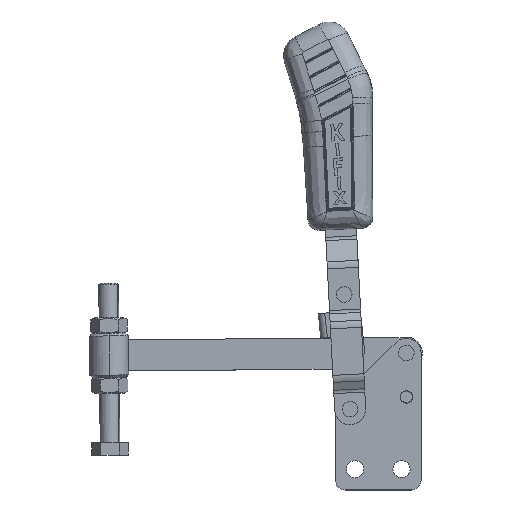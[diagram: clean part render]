
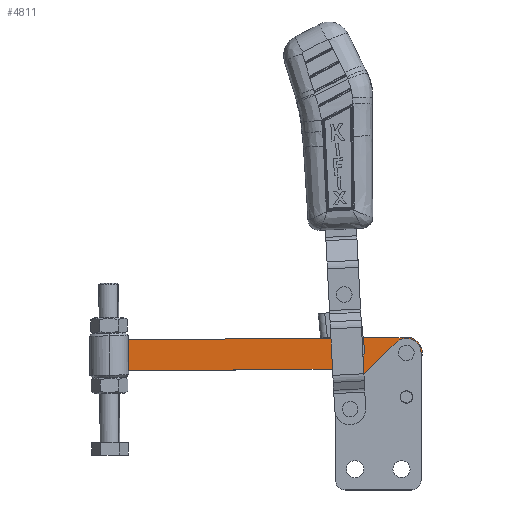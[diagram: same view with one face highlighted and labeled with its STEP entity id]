
A CAD part, top view. The second image highlights one B-rep face of the part: STEP entity #4811.
In plain terms, the highlighted planar face has unit normal (0, 0, 1) as drawn and (0, -1, 0) by its records, which use the part's own axes.
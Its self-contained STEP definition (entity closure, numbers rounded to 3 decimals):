
#299 = VERTEX_POINT ( 'NONE', #21518 ) ;
#413 = CARTESIAN_POINT ( 'NONE',  ( -33.018, 0., 2.4 ) ) ;
#459 = CARTESIAN_POINT ( 'NONE',  ( -56.018, 0., 0. ) ) ;
#463 = LINE ( 'NONE', #14193, #4371 ) ;
#575 = DIRECTION ( 'NONE',  ( 0., 0., 1. ) ) ;
#641 = DIRECTION ( 'NONE',  ( 0., 1., 0. ) ) ;
#696 = EDGE_CURVE ( 'NONE', #15420, #12527, #463, .T. ) ;
#1236 = ORIENTED_EDGE ( 'NONE', *, *, #18693, .F. ) ;
#1332 = ORIENTED_EDGE ( 'NONE', *, *, #11831, .T. ) ;
#1400 = ORIENTED_EDGE ( 'NONE', *, *, #2900, .T. ) ;
#1538 = ORIENTED_EDGE ( 'NONE', *, *, #14061, .T. ) ;
#1716 = DIRECTION ( 'NONE',  ( 0., 1., 0. ) ) ;
#1996 = DIRECTION ( 'NONE',  ( 0., 1., 0. ) ) ;
#2114 = AXIS2_PLACEMENT_3D ( 'NONE', #3198, #1716, #16602 ) ;
#2157 = VECTOR ( 'NONE', #11568, 1000. ) ;
#2420 = CARTESIAN_POINT ( 'NONE',  ( -25.831, 0., 6.731 ) ) ;
#2900 = EDGE_CURVE ( 'NONE', #299, #13559, #4855, .T. ) ;
#2974 = AXIS2_PLACEMENT_3D ( 'NONE', #17059, #3847, #575 ) ;
#3198 = CARTESIAN_POINT ( 'NONE',  ( -33.018, 0., 0. ) ) ;
#3351 = CARTESIAN_POINT ( 'NONE',  ( -56.018, 0., 2.4 ) ) ;
#3770 = AXIS2_PLACEMENT_3D ( 'NONE', #14757, #4829, #16428 ) ;
#3847 = DIRECTION ( 'NONE',  ( 0., 1., 0. ) ) ;
#4044 = DIRECTION ( 'NONE',  ( 0., -1., 0. ) ) ;
#4118 = DIRECTION ( 'NONE',  ( 0., 0., -1. ) ) ;
#4371 = VECTOR ( 'NONE', #14681, 1000. ) ;
#4480 = ORIENTED_EDGE ( 'NONE', *, *, #20715, .F. ) ;
#4646 = ORIENTED_EDGE ( 'NONE', *, *, #19034, .T. ) ;
#4804 = CIRCLE ( 'NONE', #3770, 2.4 ) ;
#4811 = ADVANCED_FACE ( 'NONE', ( #18098, #13133, #8695 ), #21360, .T. ) ;
#4829 = DIRECTION ( 'NONE',  ( 0., 1., 0. ) ) ;
#4855 = CIRCLE ( 'NONE', #18458, 2.4 ) ;
#5027 = VERTEX_POINT ( 'NONE', #16900 ) ;
#5112 = CARTESIAN_POINT ( 'NONE',  ( -41.05, 0., -46.85 ) ) ;
#5307 = AXIS2_PLACEMENT_3D ( 'NONE', #11929, #1996, #13604 ) ;
#5432 = EDGE_LOOP ( 'NONE', ( #1236, #4480, #16085, #7233, #1538, #14397 ) ) ;
#5660 = AXIS2_PLACEMENT_3D ( 'NONE', #10553, #641, #12232 ) ;
#6793 = DIRECTION ( 'NONE',  ( 0., 0., 1. ) ) ;
#7135 = DIRECTION ( 'NONE',  ( 0., 1., 0. ) ) ;
#7233 = ORIENTED_EDGE ( 'NONE', *, *, #696, .F. ) ;
#7957 = VERTEX_POINT ( 'NONE', #21205 ) ;
#8052 = AXIS2_PLACEMENT_3D ( 'NONE', #5112, #16713, #6793 ) ;
#8381 = CARTESIAN_POINT ( 'NONE',  ( -56.018, 0., 0. ) ) ;
#8695 = FACE_BOUND ( 'NONE', #19051, .T. ) ;
#8706 = LINE ( 'NONE', #18427, #12623 ) ;
#9041 = CIRCLE ( 'NONE', #5660, 10. ) ;
#10056 = EDGE_CURVE ( 'NONE', #5027, #20332, #11176, .T. ) ;
#10109 = DIRECTION ( 'NONE',  ( 0., 0., -1. ) ) ;
#10443 = LINE ( 'NONE', #18137, #2157 ) ;
#10553 = CARTESIAN_POINT ( 'NONE',  ( -23.099, 0., 16.35 ) ) ;
#10653 = VERTEX_POINT ( 'NONE', #21049 ) ;
#11035 = ORIENTED_EDGE ( 'NONE', *, *, #10056, .T. ) ;
#11176 = CIRCLE ( 'NONE', #2114, 2.4 ) ;
#11551 = CARTESIAN_POINT ( 'NONE',  ( 57.55, 0., 6.35 ) ) ;
#11568 = DIRECTION ( 'NONE',  ( -1., 0., 0. ) ) ;
#11831 = EDGE_CURVE ( 'NONE', #20332, #5027, #16857, .T. ) ;
#11929 = CARTESIAN_POINT ( 'NONE',  ( -56.018, 0., 0. ) ) ;
#12000 = EDGE_LOOP ( 'NONE', ( #11035, #1332 ) ) ;
#12151 = DIRECTION ( 'NONE',  ( 0., 0., 1. ) ) ;
#12232 = DIRECTION ( 'NONE',  ( 0., 0., -1. ) ) ;
#12527 = VERTEX_POINT ( 'NONE', #11551 ) ;
#12623 = VECTOR ( 'NONE', #10109, 1000. ) ;
#12850 = CIRCLE ( 'NONE', #5307, 6.532 ) ;
#13133 = FACE_OUTER_BOUND ( 'NONE', #5432, .T. ) ;
#13559 = VERTEX_POINT ( 'NONE', #3351 ) ;
#13604 = DIRECTION ( 'NONE',  ( 0., 0., -1. ) ) ;
#14061 = EDGE_CURVE ( 'NONE', #15420, #14741, #9041, .T. ) ;
#14193 = CARTESIAN_POINT ( 'NONE',  ( 57.55, 0., 6.35 ) ) ;
#14307 = CARTESIAN_POINT ( 'NONE',  ( -57.55, 0., 6.35 ) ) ;
#14397 = ORIENTED_EDGE ( 'NONE', *, *, #17718, .T. ) ;
#14681 = DIRECTION ( 'NONE',  ( 1., 0., 0. ) ) ;
#14741 = VERTEX_POINT ( 'NONE', #2420 ) ;
#14757 = CARTESIAN_POINT ( 'NONE',  ( -56.018, 0., 0. ) ) ;
#15360 = VERTEX_POINT ( 'NONE', #14307 ) ;
#15420 = VERTEX_POINT ( 'NONE', #17808 ) ;
#16085 = ORIENTED_EDGE ( 'NONE', *, *, #18651, .F. ) ;
#16428 = DIRECTION ( 'NONE',  ( 0., 0., 1. ) ) ;
#16602 = DIRECTION ( 'NONE',  ( 0., 0., 1. ) ) ;
#16713 = DIRECTION ( 'NONE',  ( 0., -1., 0. ) ) ;
#16857 = CIRCLE ( 'NONE', #2974, 2.4 ) ;
#16900 = CARTESIAN_POINT ( 'NONE',  ( -33.018, 0., -2.4 ) ) ;
#17059 = CARTESIAN_POINT ( 'NONE',  ( -33.018, 0., 0. ) ) ;
#17718 = EDGE_CURVE ( 'NONE', #14741, #15360, #19720, .T. ) ;
#17808 = CARTESIAN_POINT ( 'NONE',  ( -23.099, 0., 6.35 ) ) ;
#18098 = FACE_BOUND ( 'NONE', #12000, .T. ) ;
#18137 = CARTESIAN_POINT ( 'NONE',  ( -57.55, 0., -6.35 ) ) ;
#18215 = AXIS2_PLACEMENT_3D ( 'NONE', #459, #4044, #4118 ) ;
#18427 = CARTESIAN_POINT ( 'NONE',  ( 57.55, 0., -6.35 ) ) ;
#18458 = AXIS2_PLACEMENT_3D ( 'NONE', #8381, #7135, #12151 ) ;
#18651 = EDGE_CURVE ( 'NONE', #12527, #10653, #8706, .T. ) ;
#18693 = EDGE_CURVE ( 'NONE', #7957, #15360, #12850, .T. ) ;
#19034 = EDGE_CURVE ( 'NONE', #13559, #299, #4804, .T. ) ;
#19051 = EDGE_LOOP ( 'NONE', ( #1400, #4646 ) ) ;
#19720 = CIRCLE ( 'NONE', #8052, 55.7 ) ;
#20332 = VERTEX_POINT ( 'NONE', #413 ) ;
#20715 = EDGE_CURVE ( 'NONE', #10653, #7957, #10443, .T. ) ;
#21049 = CARTESIAN_POINT ( 'NONE',  ( 57.55, 0., -6.35 ) ) ;
#21205 = CARTESIAN_POINT ( 'NONE',  ( -57.55, 0., -6.35 ) ) ;
#21360 = PLANE ( 'NONE',  #18215 ) ;
#21518 = CARTESIAN_POINT ( 'NONE',  ( -56.018, 0., -2.4 ) ) ;
